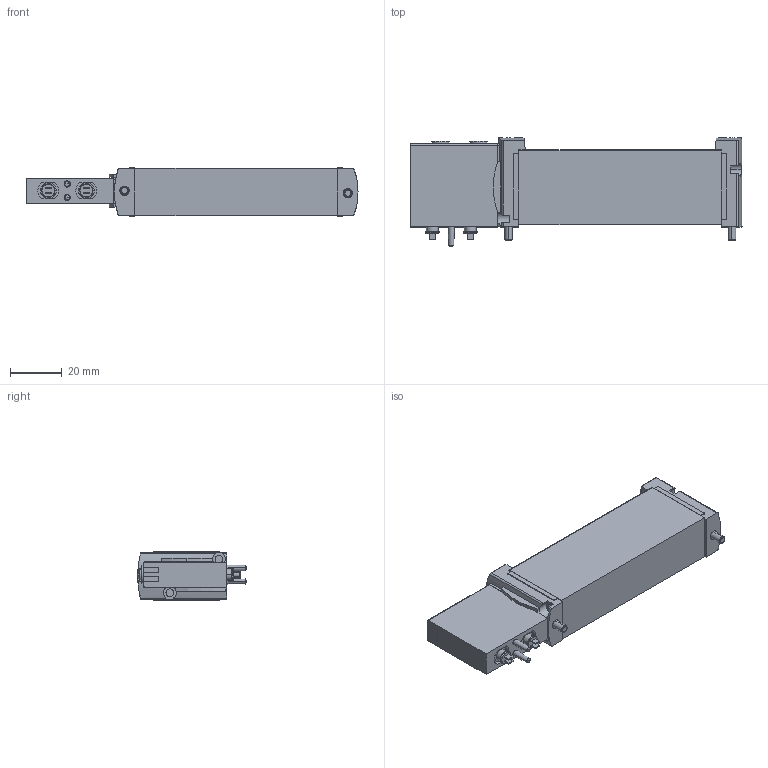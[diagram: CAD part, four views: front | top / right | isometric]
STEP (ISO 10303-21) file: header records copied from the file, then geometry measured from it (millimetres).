
FILE_DESCRIPTION (( 'STEP AP203' ), '1' );
FILE_NAME ('8180412140 FAS-B18-M52-MZ.STEP', '2024-09-10T07:17:26', ( 'L' ), ( '' ), 'SwSTEP 2.0', 'SolidWorks 2019', '' );
FILE_SCHEMA (( 'CONFIG_CONTROL_DESIGN' ));
Length unit declared in the file: millimetre
Products named in the file (1): 8180412140 FAS-B18-M52-MZ
Bounding box: 128.4 x 41.99 x 18.7 mm (x, y, z)
Volume: 61887.7 mm3; surface area: 15893.1 mm2
Topology: 3 solids, 7 shells, 389 faces, 983 edges, 635 vertices
Faces by surface type: plane 241, cylinder 108, cone 20, bspline 16, sphere 4
Entity records: 12430 total; most frequent: CARTESIAN_POINT 2982, ORIENTED_EDGE 1966, DIRECTION 1918, EDGE_CURVE 983, LINE 646, VECTOR 646, AXIS2_PLACEMENT_3D 636, VERTEX_POINT 635
